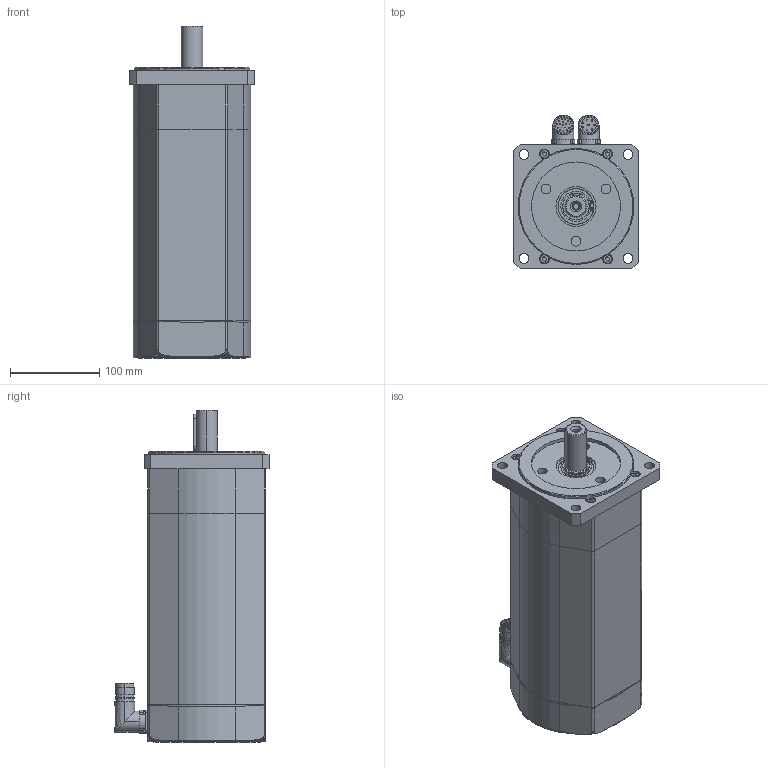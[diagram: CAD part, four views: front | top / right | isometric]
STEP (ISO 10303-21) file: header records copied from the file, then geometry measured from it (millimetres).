
FILE_DESCRIPTION (( 'STEP AP203' ), '1' );
FILE_NAME ('SSAX140L_CF.STEP', '2015-09-10T13:24:34', ( 'Tecnico motori' ), ( '' ), 'SwSTEP 2.0', 'SolidWorks 2010', '' );
FILE_SCHEMA (( 'CONFIG_CONTROL_DESIGN' ));
Length unit declared in the file: millimetre
Products named in the file (1): SSAX140L_CF
Bounding box: 140 x 173 x 372.85 mm (x, y, z)
Surface area: 221702.1 mm2 (no closed solid volume)
Topology: 0 solids, 33 shells, 469 faces, 1322 edges, 920 vertices
Faces by surface type: cylinder 216, plane 194, cone 29, torus 24, bspline 6
Entity records: 16394 total; most frequent: CARTESIAN_POINT 3798, DIRECTION 2822, ORIENTED_EDGE 2291, EDGE_CURVE 1322, AXIS2_PLACEMENT_3D 1110, VERTEX_POINT 920, CIRCLE 646, VECTOR 602
